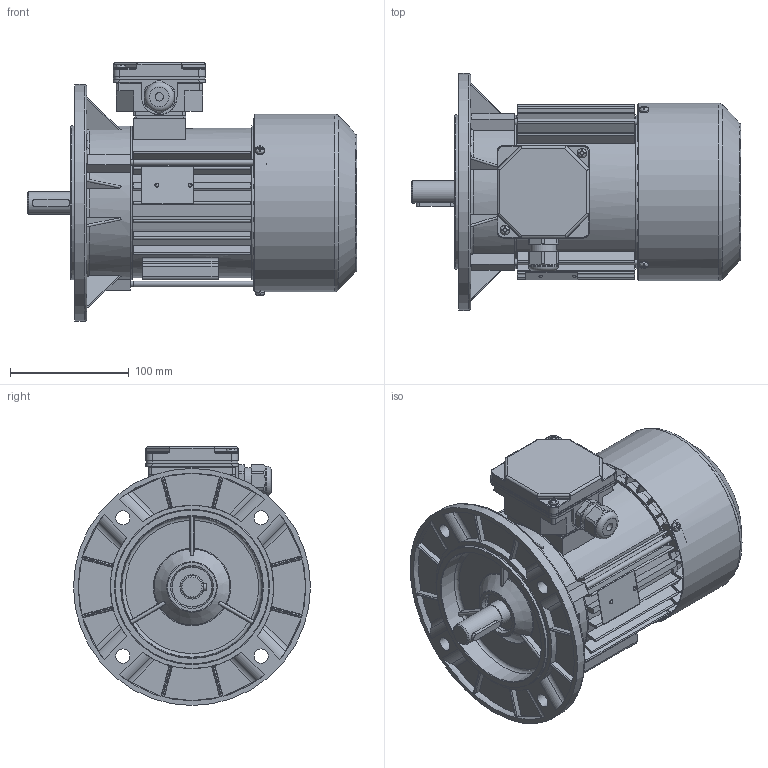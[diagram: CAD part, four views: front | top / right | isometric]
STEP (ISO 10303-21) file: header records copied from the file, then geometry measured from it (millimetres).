
FILE_DESCRIPTION( ( 'Unknown' ), '1' );
FILE_NAME( 'G:/Poczta Tk-1/STP/w.m.80/Sh80/SKh80-.B.stp', 'Unknown', ( 'K. Szlosek' ), ( 'BESEL S.A.' ), 'PSStep 17.0.49', 'Unknown', ' ' );
FILE_SCHEMA( ( 'AUTOMOTIVE_DESIGN { 1 0 10303 214 1 1 1 1 }' ) );
Length unit declared in the file: millimetre
Products named in the file (29): skrznka zaciskowa trójfazowa ; K4-2820 Uszczelka nr 2 Sh71,80; Dławnica M20x1,5; K2-0859 Podstawa skrzynki 6-cio zaciskowej; K2-0860 Pokrywka skrzynki zaciskowej; Assem1; K1-1257 Kadłub S(E,M)h80-A i B; K3-2964 Osłona przewietrznika Sh80,90; K4-2320 Uszczelka nr 1 Sh71,80; K3-4616 wał standard Sh80-B; K3-6857 Tarcza łożyskowa P S(E,M)h80-B,D; K1-1258  zmiana Tarcza kołnierzowa B5 SKh80-..; Wkręt samogwintujący M4x8; Wpust A6x6x32; Wkręt samogwintujący M4x16; Nitokołek A 2x6; K3-4025 Przewietrznik Sg,h80; Tabliczka znamionowa 32x44; Łożysko 6204; Śruba ściągająca E_M5x130
Assembly tree (44 placements, depth 3):
  Assem1
    K1-1257 Kadłub S(E,M)h80-A i B
    K3-2964 Osłona przewietrznika Sh80,90
    K4-2320 Uszczelka nr 1 Sh71,80
    K3-4616 wał standard Sh80-B
    K3-6857 Tarcza łożyskowa P S(E,M)h80-B,D
    K1-1258  zmiana Tarcza kołnierzowa B5 SKh80-..
    Wkręt samogwintujący M4x8  x3
    Wpust A6x6x32
    Wkręt samogwintujący M4x16  x2
    Nitokołek A 2x6  x2
    K3-4025 Przewietrznik Sg,h80
    Tabliczka znamionowa 32x44
    Łożysko 6204  x2
    Łożysko 6204  x2
    Łożysko 6204  x2
    Łożysko 6204  x2
    Łożysko 6204  x2
    Łożysko 6204  x2
    Łożysko 6204  x2
    Łożysko 6204  x2
    Łożysko 6204  x2
    Łożysko 6204  x2
    Śruba ściągająca E_M5x130  x3
    skrznka zaciskowa trójfazowa 
      K4-2820 Uszczelka nr 2 Sh71,80
      Dławnica M20x1,5
      K2-0859 Podstawa skrzynki 6-cio zaciskowej
      K2-0860 Pokrywka skrzynki zaciskowej
Bounding box: 277.8 x 200 x 218.5 mm (x, y, z)
Volume: 916053.5 mm3; surface area: 565856.1 mm2
Topology: 43 solids, 59 shells, 2472 faces, 6774 edges, 4405 vertices
Faces by surface type: plane 1220, cylinder 798, torus 178, cone 139, bspline 101, sphere 36
Full cylindrical faces by diameter (mm): 2 x2, 2.4 x2, 3.7 x11, 4 x6, 4.134 x3, 4.5 x1, 4.6 x3, 4.8 x4, 5 x7, 5.5 x3, 7 x1, 8 x9, 12 x4, 18.376 x1, 18.38 x1, 19 x1, 19.3 x1, 19.5 x1, 19.9 x1, 20 x3, 20.3 x2, 20.4 x4, 22.3 x1, 25 x1, 25.5 x1, 26 x2, 26.1 x1, 27 x1, 28.802 x4, 34 x2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
Entity records: 124118 total; most frequent: CARTESIAN_POINT 47413, ORIENTED_EDGE 12140, DIRECTION 11711, EDGE_CURVE 6070, AXIS2_PLACEMENT_3D 4286, VERTEX_POINT 4085, LINE 3139, VECTOR 3139
